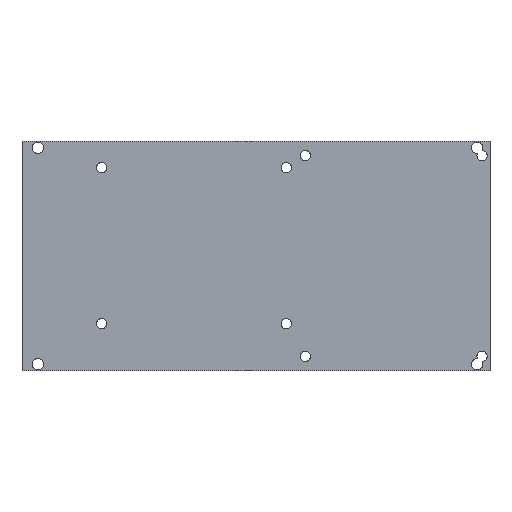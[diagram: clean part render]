
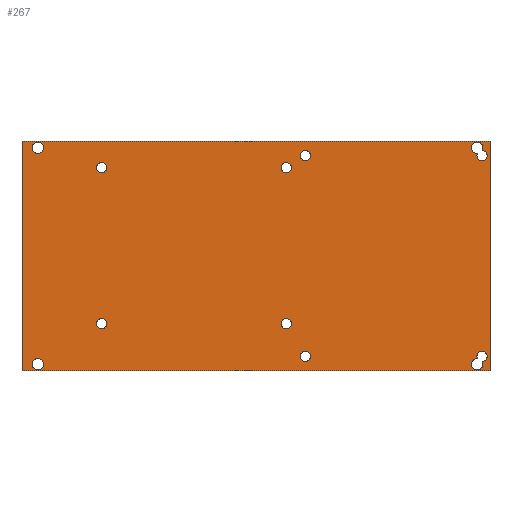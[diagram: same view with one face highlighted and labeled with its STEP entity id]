
A CAD part, top view. The second image highlights one B-rep face of the part: STEP entity #267.
In plain terms, the highlighted planar face has unit normal (0, 0, 1).
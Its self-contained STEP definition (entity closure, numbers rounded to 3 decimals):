
#32 = VERTEX_POINT('',#33);
#33 = CARTESIAN_POINT('',(0.,72.,3.));
#39 = EDGE_CURVE('',#32,#40,#42,.T.);
#40 = VERTEX_POINT('',#41);
#41 = CARTESIAN_POINT('',(0.,0.,3.));
#42 = LINE('',#43,#44);
#43 = CARTESIAN_POINT('',(0.,72.,3.));
#44 = VECTOR('',#45,1.);
#45 = DIRECTION('',(0.,-1.,0.));
#250 = VERTEX_POINT('',#251);
#251 = CARTESIAN_POINT('',(147.,0.,3.));
#257 = EDGE_CURVE('',#40,#250,#258,.T.);
#258 = LINE('',#259,#260);
#259 = CARTESIAN_POINT('',(0.,0.,3.));
#260 = VECTOR('',#261,1.);
#261 = DIRECTION('',(1.,0.,0.));
#267 = ADVANCED_FACE('',(#268,#286,#297,#308,#319,#330,#341,#352,#390,
    #401,#412),#441,.T.);
#268 = FACE_BOUND('',#269,.T.);
#269 = EDGE_LOOP('',(#270,#278,#279,#280));
#270 = ORIENTED_EDGE('',*,*,#271,.F.);
#271 = EDGE_CURVE('',#32,#272,#274,.T.);
#272 = VERTEX_POINT('',#273);
#273 = CARTESIAN_POINT('',(147.,72.,3.));
#274 = LINE('',#275,#276);
#275 = CARTESIAN_POINT('',(0.,72.,3.));
#276 = VECTOR('',#277,1.);
#277 = DIRECTION('',(1.,0.,0.));
#278 = ORIENTED_EDGE('',*,*,#39,.T.);
#279 = ORIENTED_EDGE('',*,*,#257,.T.);
#280 = ORIENTED_EDGE('',*,*,#281,.F.);
#281 = EDGE_CURVE('',#272,#250,#282,.T.);
#282 = LINE('',#283,#284);
#283 = CARTESIAN_POINT('',(147.,72.,3.));
#284 = VECTOR('',#285,1.);
#285 = DIRECTION('',(0.,-1.,0.));
#286 = FACE_BOUND('',#287,.T.);
#287 = EDGE_LOOP('',(#288));
#288 = ORIENTED_EDGE('',*,*,#289,.F.);
#289 = EDGE_CURVE('',#290,#290,#292,.T.);
#290 = VERTEX_POINT('',#291);
#291 = CARTESIAN_POINT('',(5.,68.2,3.));
#292 = CIRCLE('',#293,1.8);
#293 = AXIS2_PLACEMENT_3D('',#294,#295,#296);
#294 = CARTESIAN_POINT('',(5.,70.,3.));
#295 = DIRECTION('',(0.,0.,1.));
#296 = DIRECTION('',(0.,-1.,0.));
#297 = FACE_BOUND('',#298,.T.);
#298 = EDGE_LOOP('',(#299));
#299 = ORIENTED_EDGE('',*,*,#300,.F.);
#300 = EDGE_CURVE('',#301,#301,#303,.T.);
#301 = VERTEX_POINT('',#302);
#302 = CARTESIAN_POINT('',(25.,62.132,3.));
#303 = CIRCLE('',#304,1.6);
#304 = AXIS2_PLACEMENT_3D('',#305,#306,#307);
#305 = CARTESIAN_POINT('',(25.,63.732,3.));
#306 = DIRECTION('',(0.,0.,1.));
#307 = DIRECTION('',(0.,-1.,0.));
#308 = FACE_BOUND('',#309,.T.);
#309 = EDGE_LOOP('',(#310));
#310 = ORIENTED_EDGE('',*,*,#311,.F.);
#311 = EDGE_CURVE('',#312,#312,#314,.T.);
#312 = VERTEX_POINT('',#313);
#313 = CARTESIAN_POINT('',(5.,0.2,3.));
#314 = CIRCLE('',#315,1.8);
#315 = AXIS2_PLACEMENT_3D('',#316,#317,#318);
#316 = CARTESIAN_POINT('',(5.,2.,3.));
#317 = DIRECTION('',(0.,0.,1.));
#318 = DIRECTION('',(0.,-1.,0.));
#319 = FACE_BOUND('',#320,.T.);
#320 = EDGE_LOOP('',(#321));
#321 = ORIENTED_EDGE('',*,*,#322,.F.);
#322 = EDGE_CURVE('',#323,#323,#325,.T.);
#323 = VERTEX_POINT('',#324);
#324 = CARTESIAN_POINT('',(25.,13.132,3.));
#325 = CIRCLE('',#326,1.6);
#326 = AXIS2_PLACEMENT_3D('',#327,#328,#329);
#327 = CARTESIAN_POINT('',(25.,14.732,3.));
#328 = DIRECTION('',(0.,0.,1.));
#329 = DIRECTION('',(0.,-1.,0.));
#330 = FACE_BOUND('',#331,.T.);
#331 = EDGE_LOOP('',(#332));
#332 = ORIENTED_EDGE('',*,*,#333,.F.);
#333 = EDGE_CURVE('',#334,#334,#336,.T.);
#334 = VERTEX_POINT('',#335);
#335 = CARTESIAN_POINT('',(83.,62.132,3.));
#336 = CIRCLE('',#337,1.6);
#337 = AXIS2_PLACEMENT_3D('',#338,#339,#340);
#338 = CARTESIAN_POINT('',(83.,63.732,3.));
#339 = DIRECTION('',(0.,0.,1.));
#340 = DIRECTION('',(0.,-1.,0.));
#341 = FACE_BOUND('',#342,.T.);
#342 = EDGE_LOOP('',(#343));
#343 = ORIENTED_EDGE('',*,*,#344,.F.);
#344 = EDGE_CURVE('',#345,#345,#347,.T.);
#345 = VERTEX_POINT('',#346);
#346 = CARTESIAN_POINT('',(89.,65.9,3.));
#347 = CIRCLE('',#348,1.6);
#348 = AXIS2_PLACEMENT_3D('',#349,#350,#351);
#349 = CARTESIAN_POINT('',(89.,67.5,3.));
#350 = DIRECTION('',(0.,0.,1.));
#351 = DIRECTION('',(0.,-1.,0.));
#352 = FACE_BOUND('',#353,.T.);
#353 = EDGE_LOOP('',(#354,#365,#374,#383));
#354 = ORIENTED_EDGE('',*,*,#355,.F.);
#355 = EDGE_CURVE('',#356,#358,#360,.T.);
#356 = VERTEX_POINT('',#357);
#357 = CARTESIAN_POINT('',(143.,68.2,3.));
#358 = VERTEX_POINT('',#359);
#359 = CARTESIAN_POINT('',(143.062,68.201,3.));
#360 = CIRCLE('',#361,1.8);
#361 = AXIS2_PLACEMENT_3D('',#362,#363,#364);
#362 = CARTESIAN_POINT('',(143.,70.,3.));
#363 = DIRECTION('',(0.,0.,1.));
#364 = DIRECTION('',(0.,-1.,0.));
#365 = ORIENTED_EDGE('',*,*,#366,.F.);
#366 = EDGE_CURVE('',#367,#356,#369,.T.);
#367 = VERTEX_POINT('',#368);
#368 = CARTESIAN_POINT('',(144.558,69.099,3.));
#369 = CIRCLE('',#370,1.8);
#370 = AXIS2_PLACEMENT_3D('',#371,#372,#373);
#371 = CARTESIAN_POINT('',(143.,70.,3.));
#372 = DIRECTION('',(0.,0.,1.));
#373 = DIRECTION('',(0.,-1.,0.));
#374 = ORIENTED_EDGE('',*,*,#375,.F.);
#375 = EDGE_CURVE('',#376,#367,#378,.T.);
#376 = VERTEX_POINT('',#377);
#377 = CARTESIAN_POINT('',(144.5,65.9,3.));
#378 = CIRCLE('',#379,1.6);
#379 = AXIS2_PLACEMENT_3D('',#380,#381,#382);
#380 = CARTESIAN_POINT('',(144.5,67.5,3.));
#381 = DIRECTION('',(0.,0.,1.));
#382 = DIRECTION('',(0.,-1.,0.));
#383 = ORIENTED_EDGE('',*,*,#384,.F.);
#384 = EDGE_CURVE('',#358,#376,#385,.T.);
#385 = CIRCLE('',#386,1.6);
#386 = AXIS2_PLACEMENT_3D('',#387,#388,#389);
#387 = CARTESIAN_POINT('',(144.5,67.5,3.));
#388 = DIRECTION('',(0.,0.,1.));
#389 = DIRECTION('',(0.,-1.,0.));
#390 = FACE_BOUND('',#391,.T.);
#391 = EDGE_LOOP('',(#392));
#392 = ORIENTED_EDGE('',*,*,#393,.F.);
#393 = EDGE_CURVE('',#394,#394,#396,.T.);
#394 = VERTEX_POINT('',#395);
#395 = CARTESIAN_POINT('',(83.,13.132,3.));
#396 = CIRCLE('',#397,1.6);
#397 = AXIS2_PLACEMENT_3D('',#398,#399,#400);
#398 = CARTESIAN_POINT('',(83.,14.732,3.));
#399 = DIRECTION('',(0.,0.,1.));
#400 = DIRECTION('',(0.,-1.,0.));
#401 = FACE_BOUND('',#402,.T.);
#402 = EDGE_LOOP('',(#403));
#403 = ORIENTED_EDGE('',*,*,#404,.F.);
#404 = EDGE_CURVE('',#405,#405,#407,.T.);
#405 = VERTEX_POINT('',#406);
#406 = CARTESIAN_POINT('',(89.,2.9,3.));
#407 = CIRCLE('',#408,1.6);
#408 = AXIS2_PLACEMENT_3D('',#409,#410,#411);
#409 = CARTESIAN_POINT('',(89.,4.5,3.));
#410 = DIRECTION('',(0.,0.,1.));
#411 = DIRECTION('',(0.,-1.,0.));
#412 = FACE_BOUND('',#413,.T.);
#413 = EDGE_LOOP('',(#414,#425,#434));
#414 = ORIENTED_EDGE('',*,*,#415,.F.);
#415 = EDGE_CURVE('',#416,#418,#420,.T.);
#416 = VERTEX_POINT('',#417);
#417 = CARTESIAN_POINT('',(143.,0.2,3.));
#418 = VERTEX_POINT('',#419);
#419 = CARTESIAN_POINT('',(144.558,2.901,3.));
#420 = CIRCLE('',#421,1.8);
#421 = AXIS2_PLACEMENT_3D('',#422,#423,#424);
#422 = CARTESIAN_POINT('',(143.,2.,3.));
#423 = DIRECTION('',(0.,0.,1.));
#424 = DIRECTION('',(0.,-1.,0.));
#425 = ORIENTED_EDGE('',*,*,#426,.F.);
#426 = EDGE_CURVE('',#427,#416,#429,.T.);
#427 = VERTEX_POINT('',#428);
#428 = CARTESIAN_POINT('',(143.062,3.799,3.));
#429 = CIRCLE('',#430,1.8);
#430 = AXIS2_PLACEMENT_3D('',#431,#432,#433);
#431 = CARTESIAN_POINT('',(143.,2.,3.));
#432 = DIRECTION('',(0.,0.,1.));
#433 = DIRECTION('',(0.,-1.,0.));
#434 = ORIENTED_EDGE('',*,*,#435,.F.);
#435 = EDGE_CURVE('',#418,#427,#436,.T.);
#436 = CIRCLE('',#437,1.6);
#437 = AXIS2_PLACEMENT_3D('',#438,#439,#440);
#438 = CARTESIAN_POINT('',(144.5,4.5,3.));
#439 = DIRECTION('',(0.,0.,1.));
#440 = DIRECTION('',(0.,-1.,0.));
#441 = PLANE('',#442);
#442 = AXIS2_PLACEMENT_3D('',#443,#444,#445);
#443 = CARTESIAN_POINT('',(0.,72.,3.));
#444 = DIRECTION('',(0.,0.,1.));
#445 = DIRECTION('',(0.,-1.,0.));
